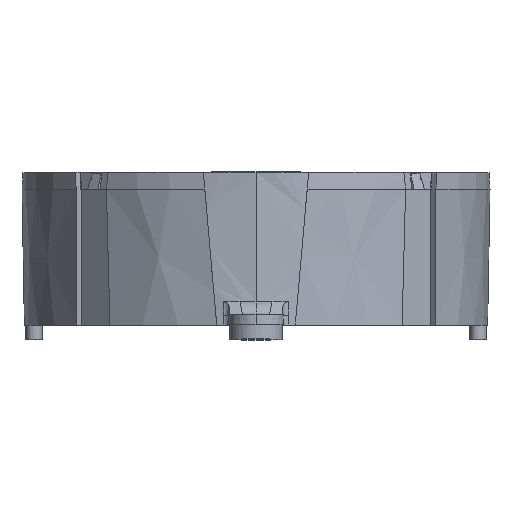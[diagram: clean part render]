
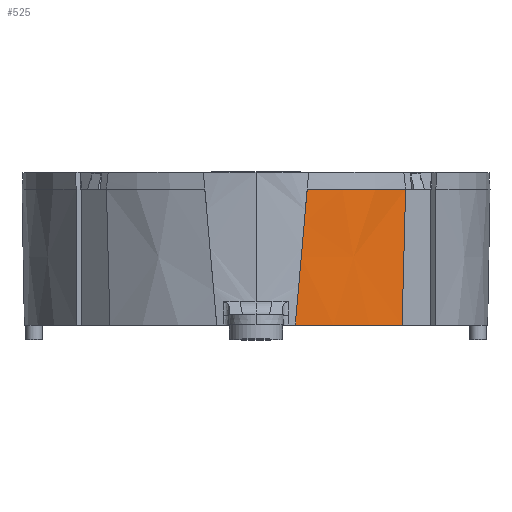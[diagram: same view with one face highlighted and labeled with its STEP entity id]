
A CAD part, top view. The second image highlights one B-rep face of the part: STEP entity #525.
In plain terms, the highlighted conical face has half-angle 1 degrees and reference radius 35 mm.
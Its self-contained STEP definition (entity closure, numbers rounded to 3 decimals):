
#525=ADVANCED_FACE('',(#1412),#1413,.T.);
#1412=FACE_OUTER_BOUND('',#3457,.T.);
#1413=CONICAL_SURFACE('',#3458,35.0,0.017);
#3457=EDGE_LOOP('',(#7018,#7019,#7020,#7021,#7022));
#3458=AXIS2_PLACEMENT_3D('',#7023,#7024,#7025);
#7018=ORIENTED_EDGE('',*,*,#8832,.T.);
#7019=ORIENTED_EDGE('',*,*,#9435,.T.);
#7020=ORIENTED_EDGE('',*,*,#8581,.F.);
#7021=ORIENTED_EDGE('',*,*,#9436,.T.);
#7022=ORIENTED_EDGE('',*,*,#8252,.T.);
#7023=CARTESIAN_POINT('',(0.,22.317,0.));
#7024=DIRECTION('',(0.,1.0,-0.0));
#7025=DIRECTION('',(-1.0,0.,0.));
#8252=EDGE_CURVE('',#9639,#9637,#9640,.T.);
#8581=EDGE_CURVE('',#10255,#10256,#10257,.T.);
#8832=EDGE_CURVE('',#9637,#10667,#10669,.T.);
#9435=EDGE_CURVE('',#10667,#10256,#11597,.T.);
#9436=EDGE_CURVE('',#10255,#9639,#11598,.T.);
#9637=VERTEX_POINT('',#11800);
#9639=VERTEX_POINT('',#11802);
#9640=B_SPLINE_CURVE_WITH_KNOTS('',3,(#11803,#11804,#11805,#11806),.UNSPECIFIED.,.F.,.F.,(4,4),(0.0,1.0),.UNSPECIFIED.);
#10255=VERTEX_POINT('',#13526);
#10256=VERTEX_POINT('',#13527);
#10257=CIRCLE('',#13528,34.956);
#10667=VERTEX_POINT('',#14375);
#10669=CIRCLE('',#14378,34.602);
#11597=B_SPLINE_CURVE_WITH_KNOTS('',3,(#17247,#17248,#17249,#17250),.UNSPECIFIED.,.F.,.F.,(4,4),(0.,0.02),.UNSPECIFIED.);
#11598=ELLIPSE('',#17251,399.477,34.117);
#11800=CARTESIAN_POINT('',(5.869,-0.5,34.1));
#11802=CARTESIAN_POINT('',(5.869,-0.499,34.1));
#11803=CARTESIAN_POINT('',(5.869,-0.499,34.1));
#11804=CARTESIAN_POINT('',(5.869,-0.499,34.1));
#11805=CARTESIAN_POINT('',(5.869,-0.5,34.1));
#11806=CARTESIAN_POINT('',(5.869,-0.5,34.1));
#13526=CARTESIAN_POINT('',(7.646,19.817,34.11));
#13527=CARTESIAN_POINT('',(22.347,19.817,26.881));
#13528=AXIS2_PLACEMENT_3D('',#19509,#19510,#19511);
#14375=CARTESIAN_POINT('',(21.82,-0.5,26.855));
#14378=AXIS2_PLACEMENT_3D('',#19829,#19830,#19831);
#17247=CARTESIAN_POINT('',(21.82,-0.5,26.855));
#17248=CARTESIAN_POINT('',(21.996,6.272,26.864));
#17249=CARTESIAN_POINT('',(22.172,13.045,26.873));
#17250=CARTESIAN_POINT('',(22.347,19.817,26.881));
#17251=AXIS2_PLACEMENT_3D('',#20235,#20236,#20237);
#19509=CARTESIAN_POINT('',(0.,19.817,0.));
#19510=DIRECTION('',(0.0,1.0,0.0));
#19511=DIRECTION('',(-0.769,0.0,-0.639));
#19829=CARTESIAN_POINT('',(0.,-0.5,0.));
#19830=DIRECTION('',(0.0,1.0,0.0));
#19831=DIRECTION('',(0.,0.0,1.0));
#20235=CARTESIAN_POINT('',(6.946,11.817,0.));
#20236=DIRECTION('',(0.996,-0.087,0.));
#20237=DIRECTION('',(0.087,0.996,0.));
